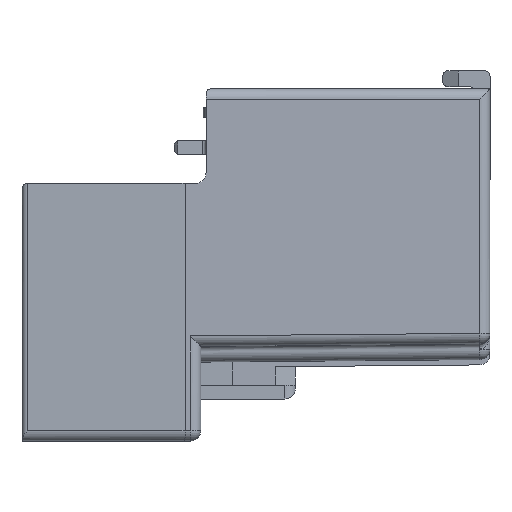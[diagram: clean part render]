
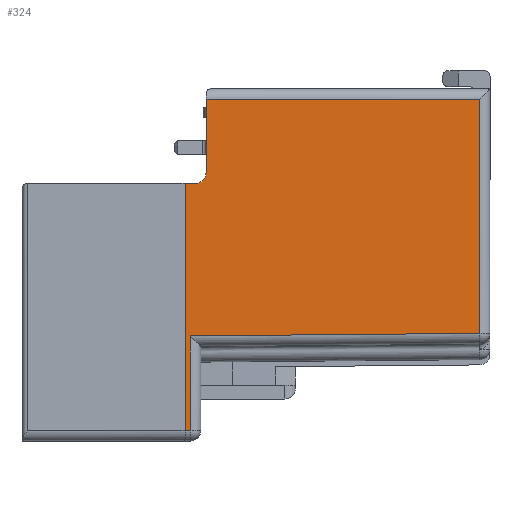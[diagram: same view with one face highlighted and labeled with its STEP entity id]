
A CAD part, left-side view. The second image highlights one B-rep face of the part: STEP entity #324.
In plain terms, the highlighted planar face has unit normal (-1, -0.009, 0).
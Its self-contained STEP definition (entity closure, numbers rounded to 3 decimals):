
#324=ADVANCED_FACE('',(#891),#705,.T.);
#705=PLANE('',#6962);
#891=FACE_OUTER_BOUND('',#1585,.T.);
#1281=ELLIPSE('',#6961,1.,1.);
#1585=EDGE_LOOP('',(#2261,#2262,#2263,#2264,#2265,#2266,#2267,#2268,#2269));
#2261=ORIENTED_EDGE('',*,*,#4823,.T.);
#2262=ORIENTED_EDGE('',*,*,#4824,.T.);
#2263=ORIENTED_EDGE('',*,*,#4799,.T.);
#2264=ORIENTED_EDGE('',*,*,#4825,.T.);
#2265=ORIENTED_EDGE('',*,*,#4812,.T.);
#2266=ORIENTED_EDGE('',*,*,#4614,.F.);
#2267=ORIENTED_EDGE('',*,*,#4826,.T.);
#2268=ORIENTED_EDGE('',*,*,#4827,.T.);
#2269=ORIENTED_EDGE('',*,*,#4828,.T.);
#4002=VERTEX_POINT('',#9723);
#4005=VERTEX_POINT('',#9728);
#4178=VERTEX_POINT('',#10105);
#4179=VERTEX_POINT('',#10106);
#4186=VERTEX_POINT('',#10127);
#4193=VERTEX_POINT('',#10148);
#4194=VERTEX_POINT('',#10149);
#4195=VERTEX_POINT('',#10153);
#4196=VERTEX_POINT('',#10155);
#4614=EDGE_CURVE('',#4005,#4002,#5585,.T.);
#4799=EDGE_CURVE('',#4178,#4179,#5736,.T.);
#4812=EDGE_CURVE('',#4186,#4002,#5745,.T.);
#4823=EDGE_CURVE('',#4193,#4194,#5754,.T.);
#4824=EDGE_CURVE('',#4194,#4178,#5755,.T.);
#4825=EDGE_CURVE('',#4179,#4186,#1281,.T.);
#4826=EDGE_CURVE('',#4005,#4195,#5756,.T.);
#4827=EDGE_CURVE('',#4195,#4196,#5757,.T.);
#4828=EDGE_CURVE('',#4196,#4193,#5758,.T.);
#5585=LINE('',#9729,#6266);
#5736=LINE('',#10104,#6417);
#5745=LINE('',#10126,#6426);
#5754=LINE('',#10147,#6435);
#5755=LINE('',#10150,#6436);
#5756=LINE('',#10152,#6437);
#5757=LINE('',#10154,#6438);
#5758=LINE('',#10156,#6439);
#6266=VECTOR('',#7652,1.);
#6417=VECTOR('',#7907,1.);
#6426=VECTOR('',#7926,1.);
#6435=VECTOR('',#7945,1.);
#6436=VECTOR('',#7946,1.);
#6437=VECTOR('',#7949,1.);
#6438=VECTOR('',#7950,1.);
#6439=VECTOR('',#7951,1.);
#6961=AXIS2_PLACEMENT_3D('',#10151,#7947,#7948);
#6962=AXIS2_PLACEMENT_3D('',#10157,#7952,#7953);
#7652=DIRECTION('',(0.,0.,1.));
#7907=DIRECTION('',(0.,0.,-1.));
#7926=DIRECTION('',(-0.009,1.,0.));
#7945=DIRECTION('',(0.,0.,1.));
#7946=DIRECTION('',(-0.009,1.,0.));
#7947=DIRECTION('',(1.,0.009,0.));
#7948=DIRECTION('',(-0.009,1.,0.));
#7949=DIRECTION('',(0.009,-1.,0.));
#7950=DIRECTION('',(0.,0.,1.));
#7951=DIRECTION('',(0.009,-1.,0.009));
#7952=DIRECTION('',(-1.,-0.009,0.));
#7953=DIRECTION('',(0.009,-1.,0.));
#9723=CARTESIAN_POINT('',(0.,29.,-9.));
#9728=CARTESIAN_POINT('',(0.,29.,-32.5));
#9729=CARTESIAN_POINT('',(0.,29.,-24.5));
#10104=CARTESIAN_POINT('',(0.017,27.,-9.));
#10105=CARTESIAN_POINT('',(0.017,27.,-1.));
#10106=CARTESIAN_POINT('',(0.017,27.,-8.));
#10126=CARTESIAN_POINT('',(0.,29.,-9.));
#10127=CARTESIAN_POINT('',(0.009,28.,-9.));
#10147=CARTESIAN_POINT('',(0.244,0.991,-9.));
#10148=CARTESIAN_POINT('',(0.244,0.991,-23.256));
#10149=CARTESIAN_POINT('',(0.244,0.991,-1.));
#10150=CARTESIAN_POINT('',(0.,29.,-1.));
#10151=CARTESIAN_POINT('',(0.009,28.,-8.));
#10152=CARTESIAN_POINT('',(0.,29.,-32.5));
#10153=CARTESIAN_POINT('',(0.004,28.491,-32.5));
#10154=CARTESIAN_POINT('',(0.004,28.491,-9.));
#10155=CARTESIAN_POINT('',(0.004,28.491,-23.496));
#10156=CARTESIAN_POINT('',(0.001,28.873,-23.499));
#10157=CARTESIAN_POINT('',(0.,29.,-9.));
